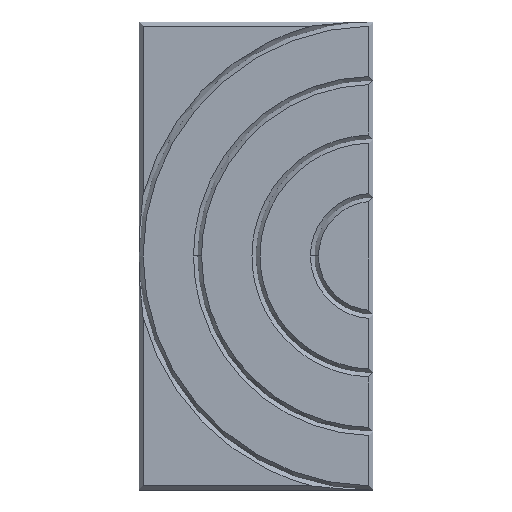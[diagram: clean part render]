
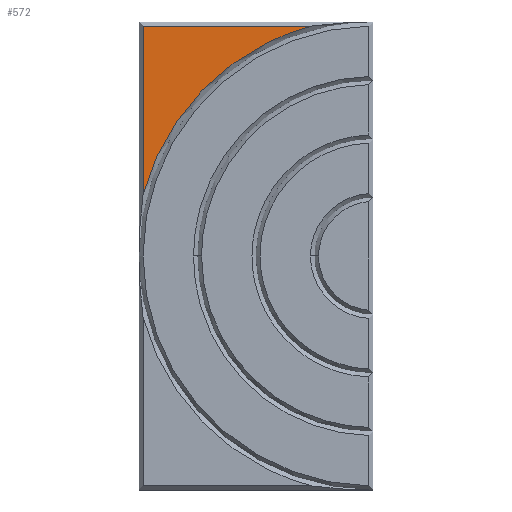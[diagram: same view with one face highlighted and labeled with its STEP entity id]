
A CAD part, top view. The second image highlights one B-rep face of the part: STEP entity #572.
In plain terms, the highlighted planar face has unit normal (0, 0, 1).
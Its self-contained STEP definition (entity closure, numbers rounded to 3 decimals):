
#3 = CARTESIAN_POINT ( 'NONE',  ( 10., 4393.101, 25. ) ) ;
#143 = VECTOR ( 'NONE', #1851, 1000. ) ;
#214 = CARTESIAN_POINT ( 'NONE',  ( 256.402, 4317.674, 25. ) ) ;
#239 = EDGE_CURVE ( 'NONE', #1728, #2402, #2359, .T. ) ;
#280 = PLANE ( 'NONE',  #1345 ) ;
#407 = CARTESIAN_POINT ( 'NONE',  ( 16.971, 4000.724, 25. ) ) ;
#444 = DIRECTION ( 'NONE',  ( 0., 1., 0. ) ) ;
#572 = ADVANCED_FACE ( 'NONE', ( #587 ), #280, .T. ) ;
#587 = FACE_OUTER_BOUND ( 'NONE', #2438, .T. ) ;
#607 = CARTESIAN_POINT ( 'NONE',  ( 55.164, 4094.823, 25. ) ) ;
#636 = CARTESIAN_POINT ( 'NONE',  ( 10., 3765.1, 25. ) ) ;
#885 = CARTESIAN_POINT ( 'NONE',  ( 424.334, 4392.205, 25. ) ) ;
#889 = CARTESIAN_POINT ( 'NONE',  ( -31.77, 3933.646, 25. ) ) ;
#981 = CARTESIAN_POINT ( 'NONE',  ( 207.38, 4281.895, 25. ) ) ;
#991 = CARTESIAN_POINT ( 'NONE',  ( 85.425, 4146.696, 25. ) ) ;
#1009 = CARTESIAN_POINT ( 'NONE',  ( 362.095, 4372.429, 25. ) ) ;
#1064 = CARTESIAN_POINT ( 'NONE',  ( 402.376, 4386.13, 25. ) ) ;
#1178 = CARTESIAN_POINT ( 'NONE',  ( 30.671, 4041.005, 25. ) ) ;
#1186 = B_SPLINE_CURVE_WITH_KNOTS ( 'NONE', 3,
 ( #2224, #1393, #407, #1178, #607, #991, #1808, #2214, #981, #214, #1484, #1009, #1064, #885, #1279 ),
 .UNSPECIFIED., .F., .F.,
 ( 4, 1, 1, 1, 1, 1, 1, 1, 1, 1, 1, 1, 4 ),
 ( 0., 0.01, 0.069, 0.128, 0.188, 0.249, 0.311, 0.372, 0.433, 0.493, 0.553, 0.611, 0.621 ),
 .UNSPECIFIED. ) ;
#1279 = CARTESIAN_POINT ( 'NONE',  ( 427.685, 4393.101, 25. ) ) ;
#1320 = EDGE_CURVE ( 'NONE', #2112, #1728, #2154, .T. ) ;
#1345 = AXIS2_PLACEMENT_3D ( 'NONE', #889, #1897, #2097 ) ;
#1393 = CARTESIAN_POINT ( 'NONE',  ( 10.895, 3978.766, 25. ) ) ;
#1472 = ORIENTED_EDGE ( 'NONE', *, *, #2149, .T. ) ;
#1484 = CARTESIAN_POINT ( 'NONE',  ( 308.278, 4347.937, 25. ) ) ;
#1543 = VECTOR ( 'NONE', #444, 1000. ) ;
#1596 = CARTESIAN_POINT ( 'NONE',  ( 10., 3975.416, 25. ) ) ;
#1728 = VERTEX_POINT ( 'NONE', #3 ) ;
#1808 = CARTESIAN_POINT ( 'NONE',  ( 121.207, 4195.722, 25. ) ) ;
#1851 = DIRECTION ( 'NONE',  ( 1., 0., 0. ) ) ;
#1897 = DIRECTION ( 'NONE',  ( 0., 0., 1. ) ) ;
#1948 = ORIENTED_EDGE ( 'NONE', *, *, #1320, .F. ) ;
#2047 = ORIENTED_EDGE ( 'NONE', *, *, #239, .F. ) ;
#2097 = DIRECTION ( 'NONE',  ( 1., 0., 0. ) ) ;
#2112 = VERTEX_POINT ( 'NONE', #1596 ) ;
#2149 = EDGE_CURVE ( 'NONE', #2112, #2402, #1186, .T. ) ;
#2154 = LINE ( 'NONE', #636, #1543 ) ;
#2214 = CARTESIAN_POINT ( 'NONE',  ( 162.061, 4241.037, 25. ) ) ;
#2224 = CARTESIAN_POINT ( 'NONE',  ( 10., 3975.416, 25. ) ) ;
#2290 = CARTESIAN_POINT ( 'NONE',  ( -58.001, 4393.101, 25. ) ) ;
#2343 = CARTESIAN_POINT ( 'NONE',  ( 427.685, 4393.101, 25. ) ) ;
#2359 = LINE ( 'NONE', #2290, #143 ) ;
#2402 = VERTEX_POINT ( 'NONE', #2343 ) ;
#2438 = EDGE_LOOP ( 'NONE', ( #1948, #1472, #2047 ) ) ;
